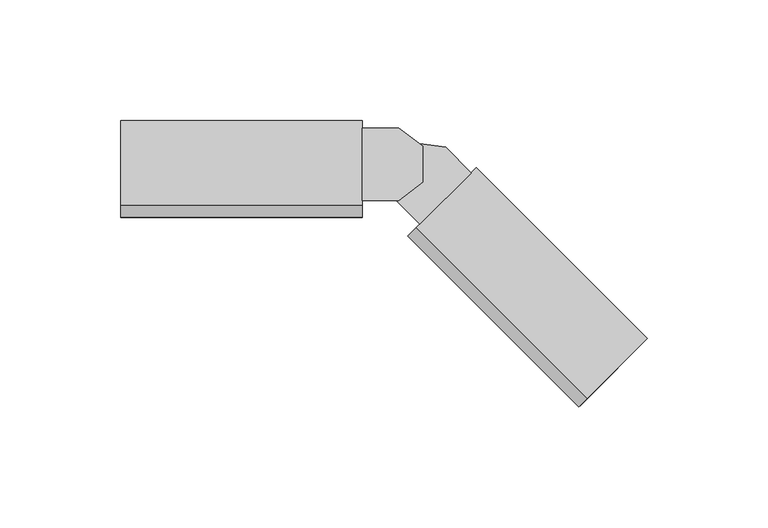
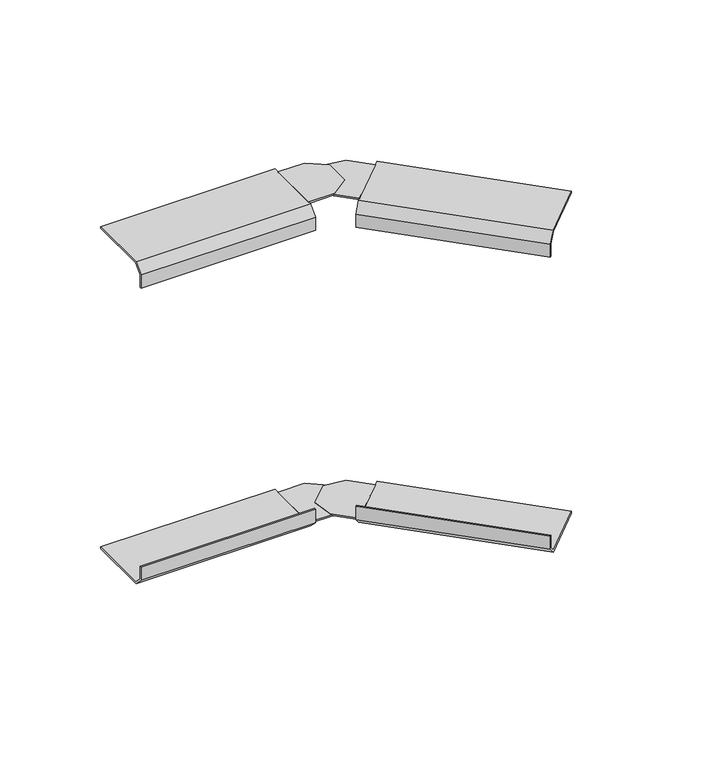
"""IFC4 building model written with IfcOpenShell, lengths in millimetres: cable carrier fitting geometry, JUBPE-A_Juction 60-Basorplast : 2 x Basorplast JUBPE-A 60."""

from ifc_helpers import new_model, si_unit, frame, origin, place, context, project, spatial, polyline, outline, extrude, source, transform, mapped, element, save


def cable_carrier_fitting_34d8d39c(model_context):
    return source(origin(), model_context, "Body", "SweptSolid", [
        extrude(outline(polyline([(34.3671439, -28.5221337), (44.9737456, -39.1287354), (23.7605421, -60.3419388), (13.1539404, -49.7353371), (11.3861537, -37.3609882), (21.9927555, -26.7543864), (34.3671439, -28.5221337)])), frame((0.0, 0.0, -97.5), z_axis=(0.0, 0.0, 1.0), x_axis=(1.0, 0.0, 0.0)), (0.0, 0.0, 1.0), 1.0),
        extrude(outline(polyline([(-1.0, 0.0), (0.0, 0.0), (0.0, -34.5857865), (4.4142136, -39.0), (12.0, -39.0), (12.0, -40.0), (4.0, -40.0), (-1.0, -35.0), (-1.0, 0.0)])), frame((117.805744, -107.7180931, -96.5), z_axis=(-0.7071067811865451, 0.70710678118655, 0.0), x_axis=(0.0, 0.0, 1.0)), (0.0, 0.0, 1.0), 100.0),
        extrude(outline(polyline([(15.0, -20.5), (25.0, -28.0000279), (25.0, -43.0000279), (15.0, -50.5), (0.0, -50.5), (0.0, -20.5), (15.0, -20.5)])), frame((0.0, 0.0, 96.5), z_axis=(0.0, 0.0, 1.0), x_axis=(1.0, 0.0, 0.0)), (0.0, 0.0, 1.0), 1.0),
        extrude(outline(polyline([(-17.5, 97.5), (-17.5, 96.5), (-52.0857864, 96.5), (-56.5, 92.0857864), (-56.5, 84.5), (-57.5, 84.5), (-57.5, 92.5), (-52.5, 97.5), (-17.5, 97.5)])), frame((-100.0, 0.0, 0.0), z_axis=(1.0, 0.0, 0.0), x_axis=(0.0, 1.0, 0.0)), (0.0, 0.0, 1.0), 100.0),
        extrude(outline(polyline([(34.3671439, -28.5221337), (44.9737456, -39.1287354), (23.7605421, -60.3419388), (13.1539404, -49.7353371), (11.3861537, -37.3609882), (21.9927555, -26.7543864), (34.3671439, -28.5221337)])), frame((0.0, 0.0, 96.5), z_axis=(0.0, 0.0, 1.0), x_axis=(1.0, 0.0, 0.0)), (0.0, 0.0, 1.0), 1.0),
        extrude(outline(polyline([(-1.0, 0.0), (-1.0, 35.0), (4.0, 40.0), (12.0, 40.0), (12.0, 39.0), (4.4142136, 39.0), (0.0, 34.5857865), (0.0, 0.0), (-1.0, 0.0)])), frame((117.805744, -107.7180931, 96.5), z_axis=(-0.707106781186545, 0.7071067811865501, 0.0), x_axis=(0.0, 0.0, -1.0)), (0.0, 0.0, 1.0), 100.0),
        extrude(outline(polyline([(15.0, -20.5), (25.0, -28.0000279), (25.0, -43.0000279), (15.0, -50.5), (0.0, -50.5), (0.0, -20.5), (15.0, -20.5)])), frame((0.0, 0.0, -97.5), z_axis=(0.0, 0.0, 1.0), x_axis=(1.0, 0.0, 0.0)), (0.0, 0.0, 1.0), 1.0),
        extrude(outline(polyline([(-17.5, -97.5), (-52.5, -97.5), (-57.5, -92.5), (-57.5, -84.5), (-56.5, -84.5), (-56.5, -92.0857864), (-52.0857864, -96.5), (-17.5, -96.5), (-17.5, -97.5)])), frame((-100.0, 0.0, 0.0), z_axis=(1.0, 0.0, 0.0), x_axis=(0.0, 1.0, 0.0)), (0.0, 0.0, 1.0), 100.0),
    ])


if __name__ == "__main__":
    model = new_model("IFC4")
    model_context = context("Model", 3, world=origin())
    ifc_project = project(units=[si_unit("LENGTHUNIT", "METRE", prefix="MILLI")], contexts=[model_context])
    site = spatial("IfcSite", under=ifc_project)
    building = spatial("IfcBuilding", under=site)
    placement = place(None, origin())
    cable_carrier_fitting_shape = cable_carrier_fitting_34d8d39c(model_context)
    element("IfcCableCarrierFitting", 1, ObjectType="JUBPE-A_Juction 60-Basorplast : 2 x Basorplast JUBPE-A 60", at=placement, inside=building, context=model_context, shape_type="MappedRepresentation", body=[
        mapped(cable_carrier_fitting_shape, transform((0.0, 0.0, 0.0), x_axis=(1.0, 0.0, 0.0), y_axis=(0.0, 1.0, 0.0), z_axis=(0.0, 0.0, 1.0))),
    ])
    save(model, "model.ifc")
